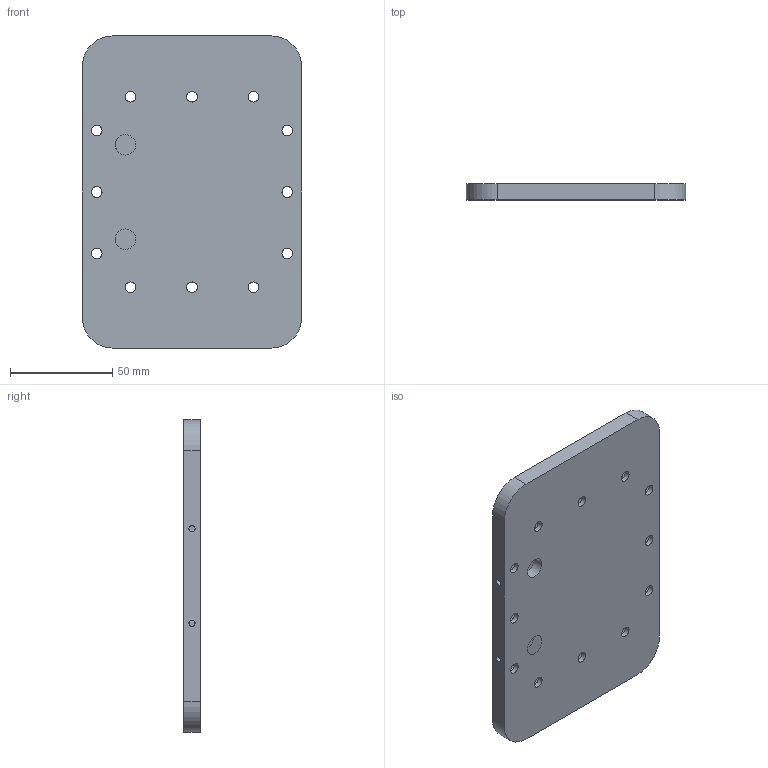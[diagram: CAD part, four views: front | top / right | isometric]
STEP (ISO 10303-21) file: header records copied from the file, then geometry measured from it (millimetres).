
FILE_DESCRIPTION(/* description */ (''),/* implementation_level */ '2;1');
FILE_NAME(/* name */ 'Aladdin_00260v4_plug.stp',/* time_stamp */ '2024-07-25T15:54:29+02:00',/* author */ (''),/* organization */ (''),/* preprocessor_version */ 'ST-DEVELOPER v19.4',/* originating_system */ 'SIEMENS PLM Software NX2306.9102',/* authorisation */ '');
FILE_SCHEMA (('AUTOMOTIVE_DESIGN { 1 0 10303 214 3 1 1 1 }'));
Length unit declared in the file: millimetre
Products named in the file (1): Aladdin_00250_detector_ASSY_objects
Bounding box: 107 x 8 x 152.4 mm (x, y, z)
Volume: 122195.3 mm3; surface area: 39090.6 mm2
Topology: 1 solids, 1 shells, 76 faces, 192 edges, 126 vertices
Faces by surface type: cylinder 38, plane 20, cone 18
Full cylindrical faces by diameter (mm): 3 x2, 4.2 x6, 5.2 x12, 9.2 x12, 10 x2
Entity records: 1974 total; most frequent: CARTESIAN_POINT 401, DIRECTION 342, ORIENTED_EDGE 208, EDGE_LOOP 168, FACE_BOUND 165, AXIS2_PLACEMENT_3D 163, EDGE_CURVE 104, VERTEX_POINT 100
